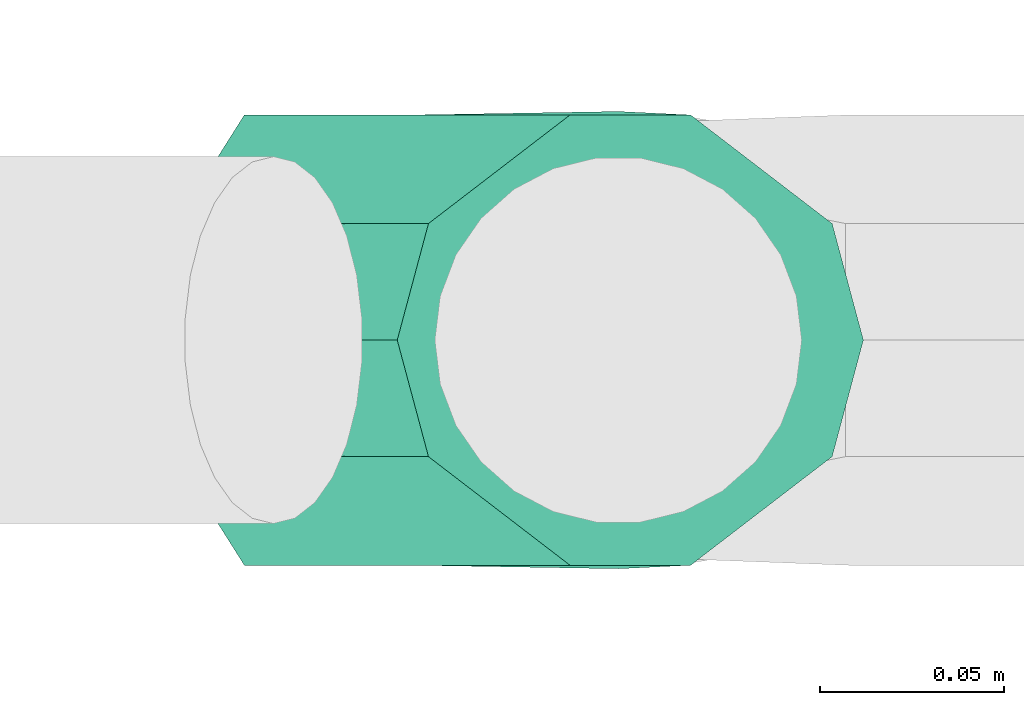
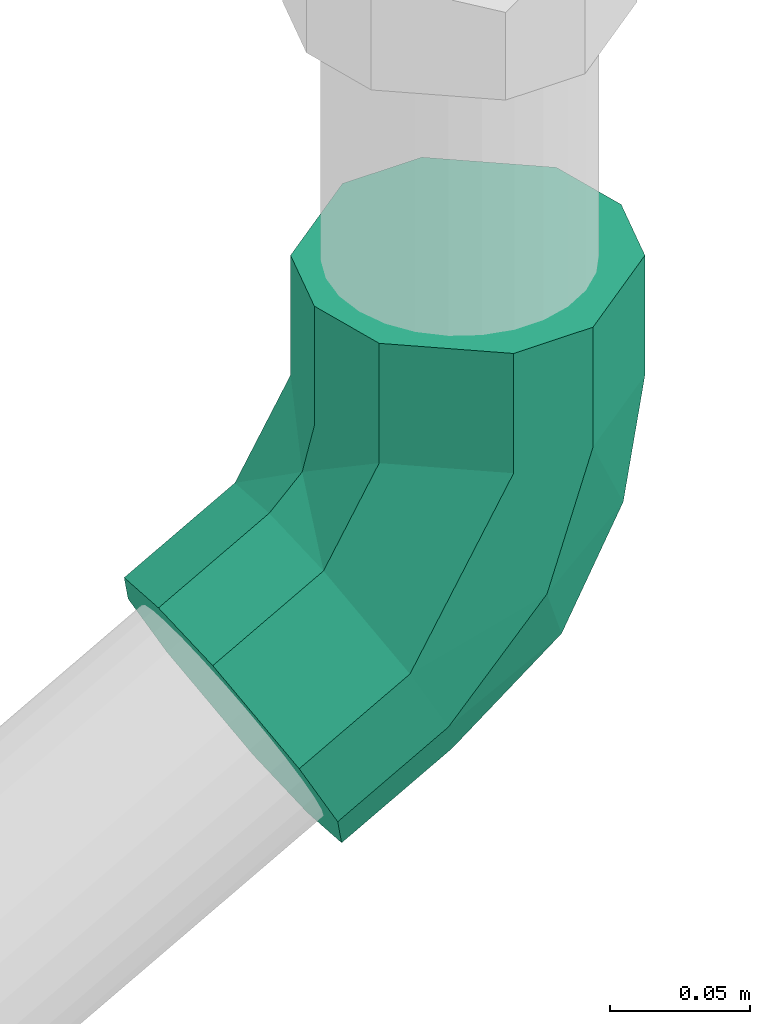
# One storey, part 14 of 15: 1 flow fitting.
"""IFC2X3 building model written with IfcOpenShell, lengths in centimetres."""

import ifcopenshell
import ifcopenshell.guid

model = None  # the IFC model being written
_history = None  # IfcOwnerHistory: only IFC2X3 demands one
_inside = {}  # id of a spatial element -> (the spatial element, [elements in it])
_under = {}  # id of a project, library or spatial element -> (it, [spatial elements below it])
_declared = {}  # id of a project -> (the project, [libraries it declares])
_typed = {}  # id of a type object -> (the type object, [elements of that type])
_made_of = {}  # id of a material, layer set ... -> (it, [elements and type objects made of it])


def new_model(schema):
    """Start an empty IFC model of exactly this schema.

    Asked for "IFC4X3", IfcOpenShell would pick the latest addendum, in which some entities
    have other attributes; the version numbers below select the first issue.
    IFC2X3 requires an IfcOwnerHistory on every rooted entity: one is made here for all.
    """
    global model, _history
    if schema == "IFC4X3":
        model = ifcopenshell.file(schema_version=(4, 3, 0, 0))
    else:
        model = ifcopenshell.file(schema=schema)
    _inside.clear()
    _under.clear()
    _declared.clear()
    _typed.clear()
    _made_of.clear()
    _history = None
    if model.schema == "IFC2X3":
        org = make("IfcOrganization", Name="unknown")
        user = make(
            "IfcPersonAndOrganization",
            ThePerson=make("IfcPerson", FamilyName="unknown"),
            TheOrganization=org,
        )
        app = make(
            "IfcApplication",
            ApplicationDeveloper=org,
            Version="unknown",
            ApplicationFullName="unknown",
            ApplicationIdentifier="unknown",
        )
        _history = make(
            "IfcOwnerHistory",
            OwningUser=user,
            OwningApplication=app,
            ChangeAction="ADDED",
            CreationDate=0,
        )
    return model


def make(cls, **values):
    """One entity of the class cls with the attributes given. An attribute that is None is left unset."""
    return model.create_entity(
        cls, **{name: value for name, value in values.items() if value is not None}
    )


def entity(cls, *values):
    """Any entity or typed value of the class cls, its attributes in the order of the schema. None: left unset."""
    e = model.create_entity(cls)
    for i, value in enumerate(values):
        if value is not None:
            e[i] = value
    return e


def rooted(cls, **values):
    """An entity with a GlobalId (a new one), such as an element, a storey or a relation."""
    return make(cls, GlobalId=ifcopenshell.guid.new(), OwnerHistory=_history, **values)


def si_unit(unit_type, name, prefix=None):
    """IfcSIUnit, for example si_unit("LENGTHUNIT", "METRE", prefix="MILLI")."""
    return make("IfcSIUnit", UnitType=unit_type, Prefix=prefix, Name=name)


def converted_unit(unit_type, name, factor, base, dimensions=None, offset=None):
    """IfcConversionBasedUnit, such as the inch: factor (a typed value) times the base unit."""
    return make(
        "IfcConversionBasedUnit"
        if offset is None
        else "IfcConversionBasedUnitWithOffset",
        ConversionOffset=offset,
        Dimensions=None
        if dimensions is None
        else entity("IfcDimensionalExponents", *dimensions),
        UnitType=unit_type,
        Name=name,
        ConversionFactor=make(
            "IfcMeasureWithUnit", ValueComponent=factor, UnitComponent=base
        ),
    )


def assignment(units):
    """IfcUnitAssignment: the units of a project."""
    return None if units is None else make("IfcUnitAssignment", Units=units)


def point(xyz):
    """IfcCartesianPoint."""
    return None if xyz is None else make("IfcCartesianPoint", Coordinates=xyz)


def direction(xyz):
    """IfcDirection."""
    return None if xyz is None else make("IfcDirection", DirectionRatios=xyz)


def frame(location, z_axis=None, x_axis=None):
    """IfcAxis2Placement3D, a coordinate frame: its origin and axes. An axis left out is left unset."""
    return make(
        "IfcAxis2Placement3D",
        Location=point(location),
        Axis=direction(z_axis),
        RefDirection=direction(x_axis),
    )


def origin():
    """The frame at (0, 0, 0) with its axes left unset."""
    return frame((0.0, 0.0, 0.0))


def place(relative_to, where):
    """IfcLocalPlacement: puts the frame where relative to a parent placement (None: the world)."""
    return make(
        "IfcLocalPlacement", PlacementRelTo=relative_to, RelativePlacement=where
    )


def context(
    kind, dimensions, precision=None, world=None, true_north=None, identifier=None
):
    """IfcGeometricRepresentationContext, for example the 3D "Model" context."""
    return make(
        "IfcGeometricRepresentationContext",
        ContextIdentifier=identifier,
        ContextType=kind,
        CoordinateSpaceDimension=dimensions,
        Precision=precision,
        WorldCoordinateSystem=world,
        TrueNorth=true_north,
    )


def subcontext(parent, identifier, kind, view, scale=None):
    """IfcGeometricRepresentationSubContext, for example "Body" below "Model"."""
    return make(
        "IfcGeometricRepresentationSubContext",
        ContextIdentifier=identifier,
        ContextType=kind,
        ParentContext=parent,
        TargetScale=scale,
        TargetView=view,
    )


def project(units=None, contexts=None):
    """IfcProject with its units and contexts."""
    return rooted(
        "IfcProject",
        Name="project",
        RepresentationContexts=contexts,
        UnitsInContext=assignment(units),
    )


def spatial(cls, under=None, at=None, **own):
    """A site, building, storey or space (cls), placed at a placement, below another one or the project."""
    s = rooted(cls, ObjectPlacement=at, **own)
    if under is not None:
        _under.setdefault(under.id(), (under, []))[1].append(s)
    return s


def faces_of(points, faces, orient=None, outer=None):
    """IfcFace entities. A face is a list of loops; a loop is a list of indices into points, from 0.

    orient and outer hold one flag for each loop. By default every Orientation is true, the
    first loop of a face is its IfcFaceOuterBound and the others are IfcFaceBound.
    """
    made = []
    for i, loops in enumerate(faces):
        bounds = []
        for j, loop in enumerate(loops):
            is_outer = j == 0 if outer is None else outer[i][j]
            bounds.append(
                make(
                    "IfcFaceOuterBound" if is_outer else "IfcFaceBound",
                    Bound=make("IfcPolyLoop", Polygon=[points[k] for k in loop]),
                    Orientation=True if orient is None else orient[i][j],
                )
            )
        made.append(make("IfcFace", Bounds=bounds))
    return made


def faceted_brep(points, faces, orient=None, outer=None, voids=None):
    """IfcFacetedBrep: a solid bounded by flat faces; with voids (closed shells), ...WithVoids."""
    shared = [point(p) for p in points]
    hull = make("IfcClosedShell", CfsFaces=faces_of(shared, faces, orient, outer))
    if voids is None:
        return make("IfcFacetedBrep", Outer=hull)
    return make(
        "IfcFacetedBrepWithVoids",
        Outer=hull,
        Voids=[
            make(cls, CfsFaces=faces_of(shared, fs, o, b)) for cls, fs, o, b in voids
        ],
    )


def shape(context_of_items, identifier, shape_type, items):
    """IfcShapeRepresentation: the items that make up one representation, for example the "Body"."""
    return make(
        "IfcShapeRepresentation",
        ContextOfItems=context_of_items,
        RepresentationIdentifier=identifier,
        RepresentationType=shape_type,
        Items=items,
    )


def source(mapping_origin, context_of_items, identifier, shape_type, items):
    """IfcRepresentationMap: a shape defined once, which mapped items show again and again."""
    return make(
        "IfcRepresentationMap",
        MappingOrigin=mapping_origin,
        MappedRepresentation=shape(context_of_items, identifier, shape_type, items),
    )


def transform(
    local_origin,
    x_axis=None,
    y_axis=None,
    z_axis=None,
    scale=None,
    scale2=None,
    scale3=None,
    uniform=True,
):
    """IfcCartesianTransformationOperator3D, or its non-uniform kind. x_axis, y_axis, z_axis: its Axis1, 2, 3."""
    if uniform:
        return make(
            "IfcCartesianTransformationOperator3D",
            Axis1=direction(x_axis),
            Axis2=direction(y_axis),
            LocalOrigin=point(local_origin),
            Scale=scale,
            Axis3=direction(z_axis),
        )
    return make(
        "IfcCartesianTransformationOperator3DnonUniform",
        Axis1=direction(x_axis),
        Axis2=direction(y_axis),
        LocalOrigin=point(local_origin),
        Scale=scale,
        Axis3=direction(z_axis),
        Scale2=scale2,
        Scale3=scale3,
    )


def mapped(mapping_source, mapping_target):
    """IfcMappedItem: shows the shape of a source again, moved by a transform."""
    return make(
        "IfcMappedItem", MappingSource=mapping_source, MappingTarget=mapping_target
    )


def material(Name=None, Category=None):
    """IfcMaterial."""
    return make("IfcMaterial", Name=Name, Category=Category)


def made_of(thing, what):
    """Note that an element or type object is made of a material, layer set ...; save() writes the relation."""
    if what is not None:
        _made_of.setdefault(what.id(), (what, []))[1].append(thing)
    return thing


def type_object(cls, material=None, **own):
    """A type object (cls), such as IfcWallType, which elements share."""
    return made_of(rooted(cls, **own), material)


def type_shapes(of_type, sources):
    """Give a type object the sources (RepresentationMaps) that its elements show as mapped items."""
    of_type.RepresentationMaps = sources


def element(
    cls,
    number,
    at=None,
    inside=None,
    cuts=None,
    type_object=None,
    material=None,
    context=None,
    identifier="Body",
    shape_type=None,
    held_by="IfcProductDefinitionShape",
    body=None,
    shapes=None,
    **own,
):
    """One element of the class cls, such as IfcWall. Its Tag is "e" and its number.

    at: its placement. inside: the storey or other place that contains it. cuts: it is an
    opening in that element (IfcRelVoidsElement). A single representation is given by context,
    identifier, shape_type and body (its items); several are given by shapes. held_by: the class
    of the entity that holds the representations. save() writes the other relations.
    """
    e = rooted(cls, Tag="e%d" % number, ObjectPlacement=at, **own)
    if body is not None:
        shapes = [shape(context, identifier, shape_type, body)]
    if shapes is not None:
        e.Representation = make(held_by, Representations=shapes)
    if inside is not None:
        _inside.setdefault(inside.id(), (inside, []))[1].append(e)
    if cuts is not None:
        rooted(
            "IfcRelVoidsElement", RelatingBuildingElement=cuts, RelatedOpeningElement=e
        )
    if type_object is not None:
        _typed.setdefault(type_object.id(), (type_object, []))[1].append(e)
    return made_of(e, material)


def aggregate(whole, parts):
    """IfcRelAggregates: a whole, such as a stair, and the parts it consists of."""
    return rooted("IfcRelAggregates", RelatingObject=whole, RelatedObjects=parts)


def save(model, path):
    """Write the relations noted so far, then the file.

    IfcRelAggregates (storeys below a building ...), IfcRelContainedInSpatialStructure (elements
    in a storey), IfcRelDefinesByType, IfcRelAssociatesMaterial and IfcRelDeclares: one each for
    every whole, place, type object, material and project.
    """
    for whole, parts in _under.values():
        aggregate(whole, parts)
    for where, things in _inside.values():
        rooted(
            "IfcRelContainedInSpatialStructure",
            RelatedElements=things,
            RelatingStructure=where,
        )
    for kind, things in _typed.values():
        rooted("IfcRelDefinesByType", RelatedObjects=things, RelatingType=kind)
    for what, things in _made_of.values():
        rooted("IfcRelAssociatesMaterial", RelatedObjects=things, RelatingMaterial=what)
    for by, libraries in _declared.values():
        rooted("IfcRelDeclares", RelatingContext=by, RelatedDefinitions=libraries)
    model.write(path)


model = new_model("IFC2X3")

# Units and contexts
model_context = context("Model", 3, precision=0.001, world=frame((0.0, 0.0, 13090.0)), true_north=direction((6.123233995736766e-17, 1.0)))
body_context = subcontext(model_context, "Body", "Model", "MODEL_VIEW")
ifc_project = project(units=[si_unit("LENGTHUNIT", "METRE", prefix="CENTI"), si_unit("AREAUNIT", "SQUARE_METRE"), si_unit("VOLUMEUNIT", "CUBIC_METRE"), converted_unit("PLANEANGLEUNIT", "DEGREE", entity("IfcPlaneAngleMeasure", 0.017453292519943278), si_unit("PLANEANGLEUNIT", "RADIAN"), dimensions=[0, 0, 0, 0, 0, 0, 0])], contexts=[model_context])

# Site, building, storey
site_placement = place(None, origin())
site = spatial("IfcSite", under=ifc_project, at=site_placement, Name="Default", CompositionType="ELEMENT")
building_placement = place(site_placement, origin())
building = spatial("IfcBuilding", under=site, at=building_placement, Name="e 39 logements et 22 maisons relais", CompositionType="ELEMENT")
storey_placement = place(building_placement, frame((0.0, 0.0, 340.0)))
storey = spatial("IfcBuildingStorey", under=building, at=storey_placement, Name="R+1", CompositionType="ELEMENT", Elevation=339.99999999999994)

# Flow fitting
ifc_material = material(Name="<Unnamed>")
pipe_fitting_type = type_object("IfcPipeFittingType", Name="Coude - PVC - Nom. 40:Standard", PredefinedType="NOTDEFINED", material=ifc_material)
shared_shape = source(origin(), body_context, "Body", "Brep", [
    faceted_brep([(-11.112499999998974, -1.6435009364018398, -6.133628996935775), (-11.11249999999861, -5.499261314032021, -3.1750000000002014), (-11.112499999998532, -6.350000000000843, 0.0), (-11.11249999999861, -5.499261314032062, 3.1749999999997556), (-11.112499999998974, -1.6435009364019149, 6.13362899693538), (-11.112499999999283, 1.6435009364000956, 6.133628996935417), (-11.112499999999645, 5.4992613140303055, 3.17499999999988), (-11.112499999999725, 6.3499999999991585, 0.0), (-11.112499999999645, 5.499261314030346, -3.175000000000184), (-11.112499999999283, 1.643500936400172, -6.13362899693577), (-5.872479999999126, -6.3500000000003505, 0.0), (-5.872479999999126, -5.499261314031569, 3.1749999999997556), (-5.872479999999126, -1.6435009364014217, 6.13362899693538), (-5.8724799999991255, 1.6435009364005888, 6.133628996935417), (6.824885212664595, 8.922426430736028, 6.13362899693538), (3.95000859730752, 10.515996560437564, 6.133628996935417), (1.4095964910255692, 5.932971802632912, 6.133628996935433), (4.284473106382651, 4.339401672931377, 6.133628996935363), (-5.872479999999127, 5.499261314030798, 3.17499999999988), (-5.872479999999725, 6.3499999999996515, 0.0), (-5.872479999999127, 5.499261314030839, -3.1750000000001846), (-5.872479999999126, 1.6435009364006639, -6.13362899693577), (-5.8724799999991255, -1.643500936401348, -6.133628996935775), (3.950008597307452, 10.515996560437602, -6.13362899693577), (6.8248852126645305, 8.922426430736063, -6.133628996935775), (4.284473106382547, 4.339401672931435, -6.1336289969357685), (1.409596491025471, 5.932971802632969, -6.1336289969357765), (-5.872479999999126, -5.499261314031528, -3.1750000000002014), (4.323780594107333, -1.6193449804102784, 3.231352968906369), (-0.3499323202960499, -3.8439649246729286, 4.030361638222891), (2.4102886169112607, -4.091858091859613, 0.0), (-0.1863602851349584, 0.31637642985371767, 6.2289762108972), (8.40086993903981, 2.0576456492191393, 0.0), (-4.035448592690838, 6.850832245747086, 0.0), (-1.9627275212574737, 7.802281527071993, 3.1749999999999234), (7.656797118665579, 2.4700919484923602, 3.174999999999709), (-2.706800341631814, 8.21472782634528, 0.0), (3.5316577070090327, -1.5575339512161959, -4.030361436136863), (-0.18636014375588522, 0.31637585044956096, -6.228976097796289), (7.656797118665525, 2.47009194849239, -3.1750000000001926), (-1.9627275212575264, 7.802281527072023, -3.1750000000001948), (-0.6798999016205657, -4.566737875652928, -3.231353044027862), (0.5776845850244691, 12.385306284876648, -3.1750000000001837), (-0.16638823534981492, 12.797752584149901, 0.0), (0.5776845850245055, 12.385306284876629, 3.17499999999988), (10.197209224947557, 7.0531167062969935, 3.1749999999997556), (10.941282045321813, 6.640670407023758, 0.0), (10.197209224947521, 7.053116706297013, -3.1750000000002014)], [[[0, 1, 2, 3, 4, 5, 6, 7, 8, 9]], [[2, 10, 11, 3]], [[3, 11, 12, 4]], [[12, 13, 5, 4]], [[14, 15, 16, 17]], [[5, 13, 18, 6]], [[6, 18, 19, 7]], [[7, 19, 20, 8]], [[8, 20, 21, 9]], [[21, 22, 0, 9]], [[23, 24, 25, 26]], [[0, 22, 27, 1]], [[1, 27, 10, 2]], [[28, 29, 30]], [[29, 11, 30]], [[13, 12, 31]], [[12, 11, 29]], [[32, 28, 30]], [[33, 18, 34]], [[33, 19, 18]], [[34, 18, 13, 16]], [[11, 10, 30]], [[32, 35, 28]], [[17, 16, 31]], [[31, 29, 28]], [[33, 34, 36]], [[12, 29, 31]], [[13, 31, 16]], [[17, 28, 35]], [[31, 28, 17]], [[25, 37, 38]], [[25, 39, 37]], [[26, 21, 20, 40]], [[38, 21, 26]], [[27, 41, 10]], [[41, 38, 37]], [[22, 38, 41]], [[22, 41, 27]], [[20, 19, 33]], [[33, 36, 40]], [[10, 41, 30]], [[30, 37, 39]], [[26, 25, 38]], [[30, 39, 32]], [[41, 37, 30]], [[38, 22, 21]], [[40, 20, 33]], [[23, 42, 43, 44, 15, 14, 45, 46, 47, 24]], [[32, 46, 45, 35]], [[35, 45, 14, 17]], [[16, 15, 44, 34]], [[34, 44, 43, 36]], [[36, 43, 42, 40]], [[40, 42, 23, 26]], [[25, 24, 47, 39]], [[39, 47, 46, 32]]]),
])
type_shapes(pipe_fitting_type, [shared_shape])
flow_fitting_placement = place(storey_placement, frame((1026.6349034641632, -572.5218873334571, -95.78433204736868), z_axis=(0.0, -1.0, 0.0), x_axis=(0.874619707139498, 0.0, 0.4848096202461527)))
element("IfcFlowFitting", 1, at=flow_fitting_placement, inside=storey, type_object=pipe_fitting_type, material=ifc_material, Name="Coude - PVC - Nom. 40:Standard", ObjectType="Coude - PVC - Nom. 40:Standard", context=body_context, shape_type="MappedRepresentation", body=[
    mapped(shared_shape, transform((0.0, 0.0, 0.0), scale=1.0)),
])

save(model, "model.ifc")
